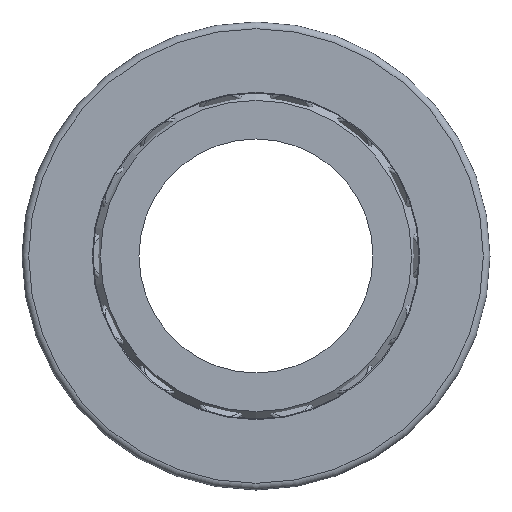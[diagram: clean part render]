
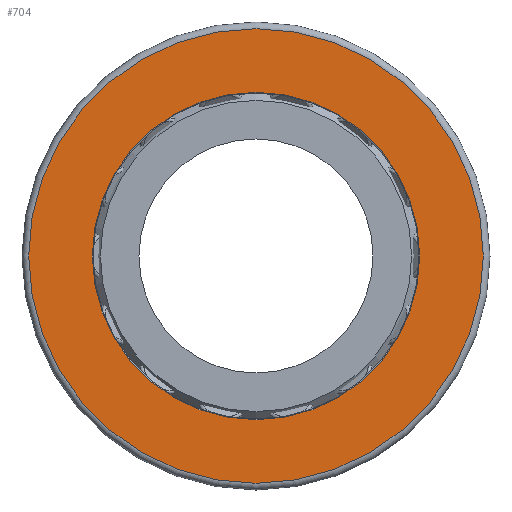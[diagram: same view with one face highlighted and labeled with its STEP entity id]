
A CAD part, front view. The second image highlights one B-rep face of the part: STEP entity #704.
In plain terms, the highlighted planar face has unit normal (0, -1, 0).
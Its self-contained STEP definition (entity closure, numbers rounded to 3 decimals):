
#127=PLANE('',#767);
#166=FACE_BOUND('',#285,.T.);
#230=FACE_OUTER_BOUND('',#284,.T.);
#284=EDGE_LOOP('',(#576));
#285=EDGE_LOOP('',(#577));
#397=CIRCLE('',#766,97.925);
#398=CIRCLE('',#768,136.);
#443=VERTEX_POINT('',#1159);
#444=VERTEX_POINT('',#1162);
#506=EDGE_CURVE('',#443,#443,#397,.T.);
#507=EDGE_CURVE('',#444,#444,#398,.T.);
#576=ORIENTED_EDGE('',*,*,#507,.F.);
#577=ORIENTED_EDGE('',*,*,#506,.F.);
#704=ADVANCED_FACE('',(#230,#166),#127,.T.);
#766=AXIS2_PLACEMENT_3D('',#1160,#895,#896);
#767=AXIS2_PLACEMENT_3D('',#1161,#897,#898);
#768=AXIS2_PLACEMENT_3D('',#1163,#899,#900);
#895=DIRECTION('center_axis',(0.,-1.,0.));
#896=DIRECTION('ref_axis',(-1.,0.,0.));
#897=DIRECTION('center_axis',(0.,-1.,0.));
#898=DIRECTION('ref_axis',(0.,0.,-1.));
#899=DIRECTION('center_axis',(0.,1.,0.));
#900=DIRECTION('ref_axis',(-1.,0.,0.));
#1159=CARTESIAN_POINT('',(97.925,-42.5,0.));
#1160=CARTESIAN_POINT('Origin',(0.,-42.5,0.));
#1161=CARTESIAN_POINT('Origin',(97.5,-42.5,0.));
#1162=CARTESIAN_POINT('',(136.,-42.5,0.));
#1163=CARTESIAN_POINT('Origin',(0.,-42.5,0.));
